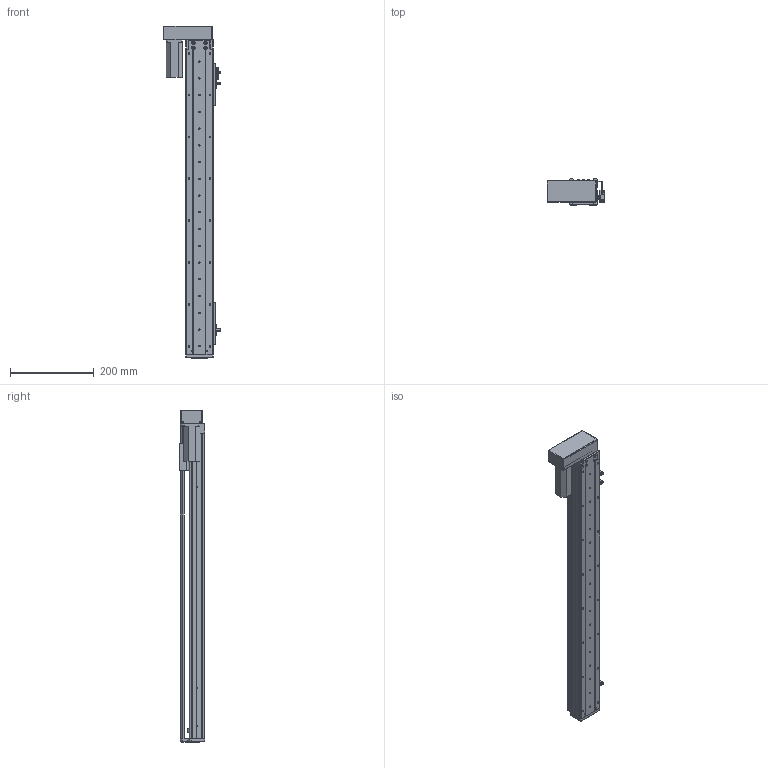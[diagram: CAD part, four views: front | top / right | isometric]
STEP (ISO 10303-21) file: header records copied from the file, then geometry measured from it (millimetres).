
FILE_DESCRIPTION (( 'STEP AP203' ), '1' );
FILE_NAME ('RY60-L1210-300-LK.SLDASM_600.step', '2021-02-20T06:54:06', ( '盈信电脑' ), ( '东莞市道滘镇水果街19号' ), 'SwSTEP 2.0', 'SolidWorks 2012', '' );
FILE_SCHEMA (( 'CONFIG_CONTROL_DESIGN' ));
Length unit declared in the file: millimetre
Products named in the file (14): 侂狟100W; RY60酘衵殏萇儂欶; RY60-L1210-300-LK.SLDASM_600; RY60左右折电机安装板-PCD46-M4; RY60转折电机端支撑座; 滅袉蝶18-10; RY80俋离覜茼え; 覜茼ん672; RY60-300倰第裔啣-LK_600; 672嫖萇羲壽假蚾釱; RY60綴裔啣; RY60-300倰第菁釱-LK_600; RY60臏賑輸; RY60-300-MGW12絳寢-LK_600
Assembly tree (19 placements, depth 2):
  RY60-L1210-300-LK.SLDASM_600
    RY60-300倰第菁釱-LK_600
    RY60-300-MGW12絳寢-LK_600
    RY60臏賑輸
    RY60-300倰第裔啣-LK_600
    672嫖萇羲壽假蚾釱  x2
    RY60綴裔啣
    覜茼ん672  x3
    RY80俋离覜茼え
    滅袉蝶18-10  x4
    RY60转折电机端支撑座
    RY60左右折电机安装板-PCD46-M4
    侂狟100W
    RY60酘衵殏萇儂欶
Bounding box: 137.9 x 61 x 793 mm (x, y, z)
Volume: 1145594.7 mm3; surface area: 561874.9 mm2
Topology: 19 solids, 19 shells, 1567 faces, 4358 edges, 2798 vertices
Faces by surface type: plane 752, cylinder 688, cone 110, bspline 17
Entity records: 47492 total; most frequent: CARTESIAN_POINT 11225, ORIENTED_EDGE 7280, DIRECTION 7156, EDGE_CURVE 3640, AXIS2_PLACEMENT_3D 2499, VERTEX_POINT 2378, VECTOR 2158, LINE 2158
